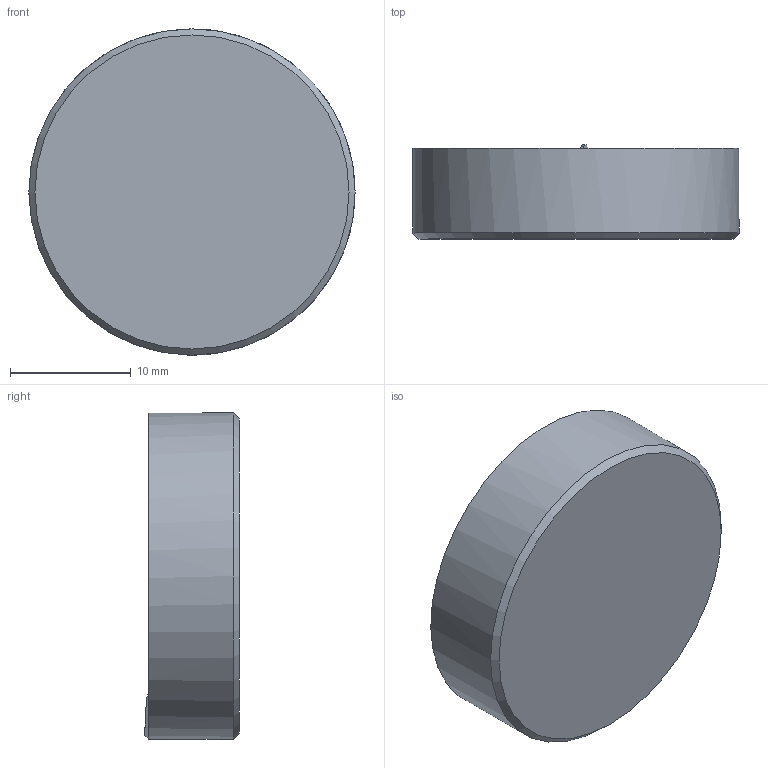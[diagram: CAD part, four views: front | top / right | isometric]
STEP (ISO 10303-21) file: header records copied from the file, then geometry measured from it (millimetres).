
FILE_DESCRIPTION( ( 'STEP AP203' ), '1' );
FILE_NAME( 'C:/Temp/Ganter_Step_05_03_2020/data/3_2/gn187_4/gn187_4_st/Serrated locking plate GN 187.4-27-60-E-ST.stp', '2020-03-13T05:25:50', ( 'License CC BY-ND 4.0' ), ( 'CADENAS' ), ' ', 'PARTsolutions', ' ' );
FILE_SCHEMA( ( 'CONFIG_CONTROL_DESIGN' ) );
Length unit declared in the file: millimetre
Products named in the file (1): _Serrated locking plate GN 187.4-27-60-E-ST
Bounding box: 27 x 7.84 x 27 mm (x, y, z)
Volume: 3983.8 mm3; surface area: 1820.5 mm2
Topology: 1 solids, 1 shells, 16 faces, 41 edges, 27 vertices
Faces by surface type: plane 7, cone 5, cylinder 4
Full cylindrical faces by diameter (mm): 19.5 x1, 27 x1
Entity records: 590 total; most frequent: CARTESIAN_POINT 186, DIRECTION 76, ORIENTED_EDGE 72, EDGE_CURVE 36, AXIS2_PLACEMENT_3D 35, VERTEX_POINT 25, EDGE_LOOP 19, FACE_OUTER_BOUND 18
